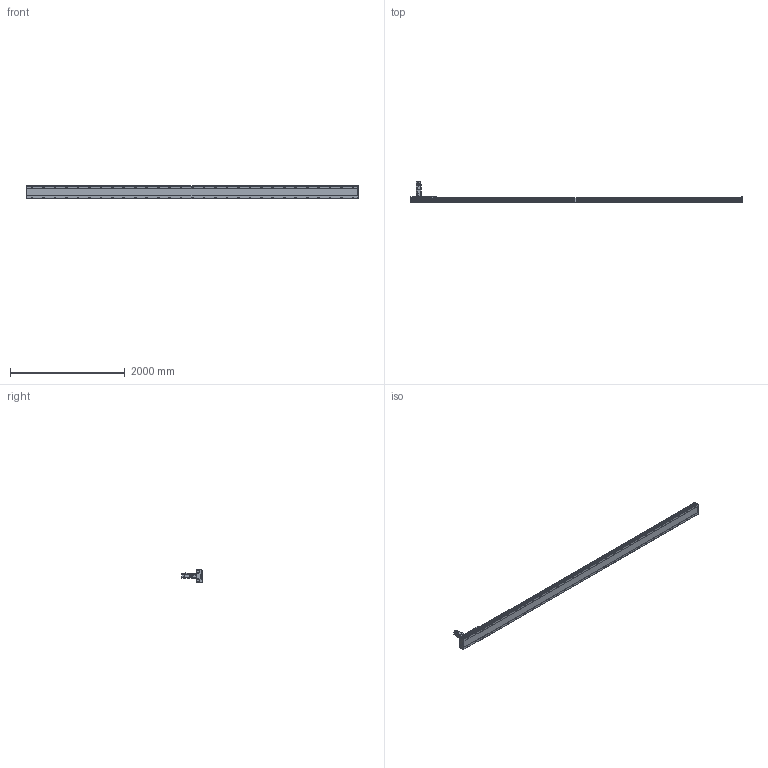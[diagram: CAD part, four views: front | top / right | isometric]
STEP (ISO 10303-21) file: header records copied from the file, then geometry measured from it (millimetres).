
FILE_DESCRIPTION(/* description */ ('STEP AP214'),/* implementation_level */ '2;1');
FILE_NAME(/* name */ 'SHS22A-L13-S5300-BC-T75-C1-N(0)',/* time_stamp */ '2022-06-15T02:29:25+02:00',/* author */ ('License CC BY-ND 4.0'),/* organization */ ('CADENAS'),/* preprocessor_version */ 'ST-DEVELOPER v18.102',/* originating_system */ 'PARTsolutions',/* authorisation */ ' ');
FILE_SCHEMA (('AUTOMOTIVE_DESIGN {1 0 10303 214 3 1 1}'));
Length unit declared in the file: millimetre
Products named in the file (7): SHS22A-L13-S5300-BC-T75-C1-N(0); PSC140-sensor; SHS22A-S5300_body2; T75-p1; SHS22A-S5300_body3; SHS22A-S5300_slider; SHS22A-L13-S5300-BC-T75-C1(0)_body
Assembly tree (13 placements, depth 2):
  SHS22A-L13-S5300-BC-T75-C1-N(0)
    PSC140-sensor  x3
    SHS22A-S5300_body2  x6
    T75-p1
    SHS22A-S5300_body3
    SHS22A-S5300_slider
    SHS22A-L13-S5300-BC-T75-C1(0)_body
Bounding box: 5794 x 350.8 x 238.4 mm (x, y, z)
Volume: 60845807 mm3; surface area: 6168090.1 mm2
Topology: 13 solids, 13 shells, 2049 faces, 5227 edges, 3418 vertices
Faces by surface type: plane 1396, cylinder 521, cone 123, torus 9
Full cylindrical faces by diameter (mm): 2.8 x3, 4.2 x2, 4.6 x3, 4.917 x4, 5 x4, 5.6 x24, 6 x31, 6.6 x24, 6.647 x8, 6.8 x9, 7.75 x6, 8 x3, 8.376 x58, 8.5 x58, 10 x4, 11 x4, 12 x24, 14 x58, 22 x1, 24.1 x1, 28 x1, 28.2 x1, 28.8 x1, 48.542 x1, 68 x1, 70 x1, 78 x1, 80 x2
Entity records: 35651 total; most frequent: CARTESIAN_POINT 6527, DIRECTION 6053, ORIENTED_EDGE 5304, EDGE_CURVE 2652, AXIS2_PLACEMENT_3D 2226, FACE_BOUND 1994, EDGE_LOOP 1993, VERTEX_POINT 1950
